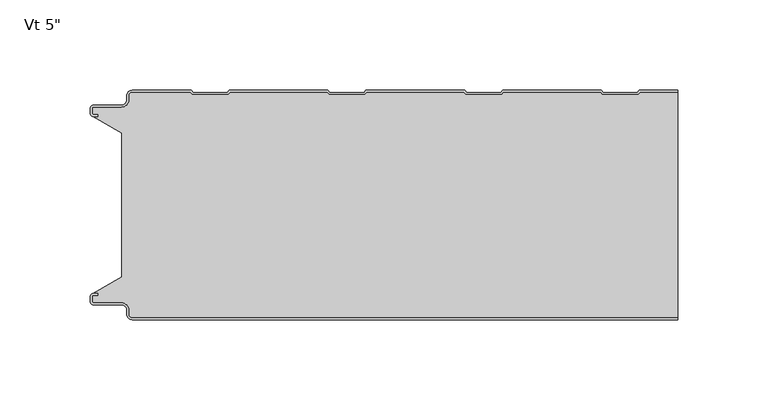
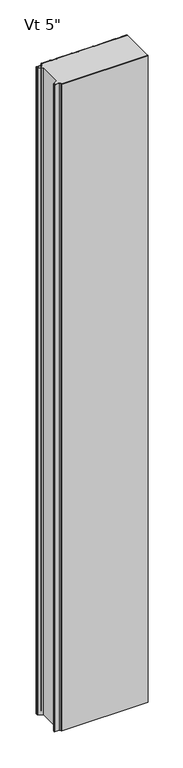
"""IFC4 building model written with IfcOpenShell, lengths in millimetres: plate geometry."""

from ifc_helpers import new_model, si_unit, frame, origin, place, context, project, spatial, polyline, circle_curve, source, transform, mapped, element, save
from ifc_brep_helpers import plane_surface, cylinder_surface, revolved_surface, advanced_brep


def plate_44be25aa(model_context):
    return source(origin(), model_context, "Body", "AdvancedBrep", [
        advanced_brep(
        [(133.0522163, -1.0, 2400.0), (153.7374998, -1.0, 2400.0), (153.7374998, 0.0, 2400.0), (132.6097769, 0.0, 2400.0), (131.5372521, -1.1911595, 2400.0), (112.6391361, -1.1911595, 2400.0), (111.5666112, 0.0, 2400.0), (56.9871567, 0.0, 2400.0), (55.9146318, -1.1911595, 2400.0), (37.0165158, -1.1911595, 2400.0), (35.943991, 0.0, 2400.0), (-18.6354636, 0.0, 2400.0), (-19.7079884, -1.1911595, 2400.0), (-38.6061045, -1.1911595, 2400.0), (-39.6786293, 0.0, 2400.0), (-94.2580838, 0.0, 2400.0), (-95.3306087, -1.1911595, 2400.0), (-114.2287247, -1.1911595, 2400.0), (-115.3012496, 0.0, 2400.0), (-147.9102806, 0.0, 2400.0), (-150.8875472, -2.9772904, 2400.0), (-150.8875472, -5.2691742, 2400.0), (-153.8648158, -8.2464427, 2400.0), (-169.4612418, -8.2464427, 2400.0), (-171.0491183, -9.8343193, 2400.0), (-171.0491183, -12.905868, 2400.0), (-169.4612418, -14.4937445, 2400.0), (-167.1062063, -14.4937445, 2400.0), (-167.1062063, -13.4937445, 2400.0), (-169.4612418, -13.4937445, 2400.0), (-170.0491183, -12.905868, 2400.0), (-170.0491183, -9.8343193, 2400.0), (-169.4612418, -9.2464427, 2400.0), (-153.8648158, -9.2464427, 2400.0), (-149.8875472, -5.2691742, 2400.0), (-149.8875472, -2.9772904, 2400.0), (-147.9102799, -1.0000218, 2400.0), (-115.7436889, -1.0, 2400.0), (-114.671164, -2.1911595, 2400.0), (-94.8881694, -2.1911595, 2400.0), (-93.8156445, -1.0, 2400.0), (-40.1210686, -1.0, 2400.0), (-39.0485438, -2.1911595, 2400.0), (-19.2655491, -2.1911595, 2400.0), (-18.1930243, -1.0, 2400.0), (35.5015516, -1.0, 2400.0), (36.5740765, -2.1911595, 2400.0), (56.3570712, -2.1911595, 2400.0), (57.429596, -1.0, 2400.0), (111.1241719, -1.0, 2400.0), (112.1966967, -2.1911595, 2400.0), (131.9796914, -2.1911595, 2400.0), (132.6097769, 0.0, 0.0), (153.7374998, 0.0, 0.0), (153.7374998, -1.0, 0.0), (133.0522163, -1.0, 0.0), (131.9796914, -2.1911595, 0.0), (112.1966967, -2.1911595, 0.0), (111.1241719, -1.0, 0.0), (57.429596, -1.0, 0.0), (56.3570712, -2.1911595, 0.0), (36.5740765, -2.1911595, 0.0), (35.5015516, -1.0, 0.0), (-18.1930243, -1.0, 0.0), (-19.2655491, -2.1911595, 0.0), (-39.0485438, -2.1911595, 0.0), (-40.1210686, -1.0, 0.0), (-93.8156445, -1.0, 0.0), (-94.8881694, -2.1911595, 0.0), (-114.671164, -2.1911595, 0.0), (-115.7436889, -1.0, 0.0), (-147.9102799, -1.0, 0.0), (-149.8875472, -2.9772904, 0.0), (-149.8875472, -5.2691742, 0.0), (-153.8648158, -9.2464427, 0.0), (-169.4612418, -9.2464427, 0.0), (-170.0491183, -9.8343193, 0.0), (-170.0491183, -12.905868, 0.0), (-169.4612418, -13.4937445, 0.0), (-167.1062063, -13.4937445, 0.0), (-167.1062063, -14.4937445, 0.0), (-169.4612418, -14.4937445, 0.0), (-171.0491183, -12.905868, 0.0), (-171.0491183, -9.8343193, 0.0), (-169.4612418, -8.2464427, 0.0), (-153.8648158, -8.2464427, 0.0), (-150.8875472, -5.2691742, 0.0), (-150.8875472, -2.9772904, 0.0), (-147.9102806, -2.18e-05, 0.0), (-115.3012496, 0.0, 0.0), (-114.2287247, -1.1911595, 0.0), (-95.3306087, -1.1911595, 0.0), (-94.2580838, 0.0, 0.0), (-39.6786293, 0.0, 0.0), (-38.6061045, -1.1911595, 0.0), (-19.7079884, -1.1911595, 0.0), (-18.6354636, 0.0, 0.0), (35.943991, 0.0, 0.0), (37.0165158, -1.1911595, 0.0), (55.9146318, -1.1911595, 0.0), (56.9871567, 0.0, 0.0), (111.5666112, 0.0, 0.0), (112.6391361, -1.1911595, 0.0), (131.5372521, -1.1911595, 0.0)],
        [
            (0, 1),
            (1, 2),
            (2, 3),
            (3, 4),
            (4, 5),
            (5, 6),
            (6, 7),
            (7, 8),
            (8, 9),
            (9, 10),
            (10, 11),
            (11, 12),
            (12, 13),
            (13, 14),
            (14, 15),
            (15, 16),
            (16, 17),
            (17, 18),
            (18, 19),
            (19, 20, circle_curve(frame((-147.9102787, -2.9772904, 2400.0), z_axis=(0.0, 0.0, 1.0), x_axis=(0.0, 1.0, 0.0)), 2.9772685)),
            (20, 21),
            (21, 22, circle_curve(frame((-153.8648158, -5.2691742, 2400.0), z_axis=(0.0, 0.0, -1.0), x_axis=(0.0, 1.0, 0.0)), 2.9772685)),
            (22, 23),
            (23, 24, circle_curve(frame((-169.4612418, -9.8343193, 2400.0), z_axis=(0.0, 0.0, 1.0), x_axis=(0.0, 1.0, 0.0)), 1.5878765)),
            (24, 25),
            (25, 26, circle_curve(frame((-169.4612418, -12.905868, 2400.0), z_axis=(0.0, 0.0, 1.0), x_axis=(0.0, 1.0, 0.0)), 1.5878765)),
            (26, 27),
            (27, 28),
            (28, 29),
            (29, 30, circle_curve(frame((-169.4612418, -12.905868, 2400.0), z_axis=(0.0, 0.0, -1.0), x_axis=(0.0, 1.0, 0.0)), 0.5878765)),
            (30, 31),
            (31, 32, circle_curve(frame((-169.4612418, -9.8343193, 2400.0), z_axis=(0.0, 0.0, -1.0), x_axis=(0.0, 1.0, 0.0)), 0.5878765)),
            (32, 33),
            (33, 34, circle_curve(frame((-153.8648158, -5.2691742, 2400.0), z_axis=(0.0, 0.0, 1.0), x_axis=(0.0, 1.0, 0.0)), 3.9772685)),
            (34, 35),
            (35, 36, circle_curve(frame((-147.9102787, -2.9772904, 2400.0), z_axis=(0.0, 0.0, -1.0), x_axis=(0.0, 1.0, 0.0)), 1.9772685)),
            (36, 37),
            (37, 38),
            (38, 39),
            (39, 40),
            (40, 41),
            (41, 42),
            (42, 43),
            (43, 44),
            (44, 45),
            (45, 46),
            (46, 47),
            (47, 48),
            (48, 49),
            (49, 50),
            (50, 51),
            (51, 0),
            (52, 53),
            (53, 54),
            (54, 55),
            (55, 56),
            (56, 57),
            (57, 58),
            (58, 59),
            (59, 60),
            (60, 61),
            (61, 62),
            (62, 63),
            (63, 64),
            (64, 65),
            (65, 66),
            (66, 67),
            (67, 68),
            (68, 69),
            (69, 70),
            (70, 71),
            (71, 72, circle_curve(frame((-147.9102787, -2.9772904, 0.0), z_axis=(0.0, 0.0, 1.0), x_axis=(0.0, 1.0, 0.0)), 1.9772685)),
            (72, 73),
            (73, 74, circle_curve(frame((-153.8648158, -5.2691742, 0.0), z_axis=(0.0, 0.0, -1.0), x_axis=(0.0, 1.0, 0.0)), 3.9772685)),
            (74, 75),
            (75, 76, circle_curve(frame((-169.4612418, -9.8343193, 0.0), z_axis=(0.0, 0.0, 1.0), x_axis=(0.0, 1.0, 0.0)), 0.5878765)),
            (76, 77),
            (77, 78, circle_curve(frame((-169.4612418, -12.905868, 0.0), z_axis=(0.0, 0.0, 1.0), x_axis=(0.0, 1.0, 0.0)), 0.5878765)),
            (78, 79),
            (79, 80),
            (80, 81),
            (81, 82, circle_curve(frame((-169.4612418, -12.905868, 0.0), z_axis=(0.0, 0.0, -1.0), x_axis=(0.0, 1.0, 0.0)), 1.5878765)),
            (82, 83),
            (83, 84, circle_curve(frame((-169.4612418, -9.8343193, 0.0), z_axis=(0.0, 0.0, -1.0), x_axis=(0.0, 1.0, 0.0)), 1.5878765)),
            (84, 85),
            (85, 86, circle_curve(frame((-153.8648158, -5.2691742, 0.0), z_axis=(0.0, 0.0, 1.0), x_axis=(0.0, 1.0, 0.0)), 2.9772685)),
            (86, 87),
            (87, 88, circle_curve(frame((-147.9102787, -2.9772904, 0.0), z_axis=(0.0, 0.0, -1.0), x_axis=(0.0, 1.0, 0.0)), 2.9772685)),
            (88, 89),
            (89, 90),
            (90, 91),
            (91, 92),
            (92, 93),
            (93, 94),
            (94, 95),
            (95, 96),
            (96, 97),
            (97, 98),
            (98, 99),
            (99, 100),
            (100, 101),
            (101, 102),
            (102, 103),
            (103, 52),
            (54, 1),
            (0, 55),
            (51, 56),
            (50, 57),
            (49, 58),
            (48, 59),
            (47, 60),
            (46, 61),
            (45, 62),
            (44, 63),
            (43, 64),
            (42, 65),
            (41, 66),
            (40, 67),
            (39, 68),
            (38, 69),
            (37, 70),
            (36, 71),
            (35, 72),
            (34, 73),
            (33, 74),
            (32, 75),
            (31, 76),
            (30, 77),
            (29, 78),
            (28, 79),
            (27, 80),
            (26, 81),
            (25, 82),
            (24, 83),
            (23, 84),
            (22, 85),
            (21, 86),
            (20, 87),
            (19, 88),
            (18, 89),
            (17, 90),
            (16, 91),
            (15, 92),
            (14, 93),
            (13, 94),
            (12, 95),
            (11, 96),
            (10, 97),
            (9, 98),
            (8, 99),
            (7, 100),
            (6, 101),
            (5, 102),
            (4, 103),
            (3, 52),
            (2, 53),
        ],
        [
            plane_surface(frame((422.5250002, 0.0, 2400.0), z_axis=(0.0, 0.0, 1.0), x_axis=(0.0, 1.0, 0.0))),
            plane_surface(frame((422.5250002, 0.0, 0.0), z_axis=(0.0, 0.0, -1.0), x_axis=(0.0, 1.0, 0.0))),
            plane_surface(frame((186.7467922, -1.0, 2400.0), z_axis=(0.0, -1.0, 0.0), x_axis=(0.0, 0.0, -1.0))),
            plane_surface(frame((133.0522163, -1.0, 2400.0), z_axis=(0.7431448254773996, -0.6691306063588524, 0.0), x_axis=(0.0, 0.0, -1.0))),
            plane_surface(frame((131.9796914, -2.1911595, 2400.0), z_axis=(0.0, -1.0, 0.0), x_axis=(0.0, 0.0, -1.0))),
            plane_surface(frame((112.1966967, -2.1911595, 2400.0), z_axis=(-0.7431448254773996, -0.6691306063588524, 0.0), x_axis=(0.0, 0.0, -1.0))),
            plane_surface(frame((111.1241719, -1.0, 2400.0), z_axis=(0.0, -1.0, 0.0), x_axis=(0.0, 0.0, -1.0))),
            plane_surface(frame((57.429596, -1.0, 2400.0), z_axis=(0.7431448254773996, -0.6691306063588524, 0.0), x_axis=(0.0, 0.0, -1.0))),
            plane_surface(frame((56.3570712, -2.1911595, 2400.0), z_axis=(0.0, -1.0, 0.0), x_axis=(0.0, 0.0, -1.0))),
            plane_surface(frame((36.5740765, -2.1911595, 2400.0), z_axis=(-0.7431448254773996, -0.6691306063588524, 0.0), x_axis=(0.0, 0.0, -1.0))),
            plane_surface(frame((35.5015516, -1.0, 2400.0), z_axis=(0.0, -1.0, 0.0), x_axis=(0.0, 0.0, -1.0))),
            plane_surface(frame((-18.1930243, -1.0, 2400.0), z_axis=(0.7431448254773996, -0.6691306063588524, 0.0), x_axis=(0.0, 0.0, -1.0))),
            plane_surface(frame((-19.2655491, -2.1911595, 2400.0), z_axis=(0.0, -1.0, 0.0), x_axis=(0.0, 0.0, -1.0))),
            plane_surface(frame((-39.0485438, -2.1911595, 2400.0), z_axis=(-0.7431448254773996, -0.6691306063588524, 0.0), x_axis=(0.0, 0.0, -1.0))),
            plane_surface(frame((-40.1210686, -1.0, 2400.0), z_axis=(0.0, -1.0, 0.0), x_axis=(0.0, 0.0, -1.0))),
            plane_surface(frame((-93.8156445, -1.0, 2400.0), z_axis=(0.7431448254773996, -0.6691306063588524, 0.0), x_axis=(0.0, 0.0, -1.0))),
            plane_surface(frame((-94.8881694, -2.1911595, 2400.0), z_axis=(0.0, -1.0, 0.0), x_axis=(0.0, 0.0, -1.0))),
            plane_surface(frame((-114.671164, -2.1911595, 2400.0), z_axis=(-0.7431448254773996, -0.6691306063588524, 0.0), x_axis=(0.0, 0.0, -1.0))),
            plane_surface(frame((-115.7436889, -1.0, 2400.0), z_axis=(0.0, -1.0, 0.0), x_axis=(0.0, 0.0, -1.0))),
            revolved_surface(polyline([(-147.9102787, -1.0000218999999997, 0.0), (-147.9102787, -1.0000218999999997, 2400.0)]), (-147.9102787, -2.9772904, 2400.0), (0.0, 0.0, -1.0)),
            plane_surface(frame((-149.8875472, -2.9772904, 2400.0), z_axis=(1.0, 0.0, 0.0), x_axis=(0.0, 0.0, -1.0))),
            cylinder_surface(frame((-153.8648158, -5.2691742, 2400.0), z_axis=(0.0, 0.0, 1.0), x_axis=(0.0, 1.0, 0.0)), 3.9772685),
            plane_surface(frame((-153.8648158, -9.2464427, 2400.0), z_axis=(0.0, -1.0, 0.0), x_axis=(0.0, 0.0, -1.0))),
            revolved_surface(polyline([(-169.4612418, -9.2464428, 0.0), (-169.4612418, -9.2464428, 2400.0)]), (-169.4612418, -9.8343193, 2400.0), (0.0, 0.0, -1.0)),
            plane_surface(frame((-170.0491183, -9.8343193, 2400.0), z_axis=(1.0, 0.0, 0.0), x_axis=(0.0, 0.0, -1.0))),
            revolved_surface(polyline([(-169.4612418, -12.3179915, 0.0), (-169.4612418, -12.3179915, 2400.0)]), (-169.4612418, -12.905868, 2400.0), (0.0, 0.0, -1.0)),
            plane_surface(frame((-169.4612418, -13.4937445, 2400.0), z_axis=(0.0, 1.0, 0.0), x_axis=(0.0, 0.0, -1.0))),
            plane_surface(frame((-167.1062063, -13.4937445, 2400.0), z_axis=(1.0, 0.0, 0.0), x_axis=(0.0, 0.0, -1.0))),
            plane_surface(frame((-167.1062063, -14.4937445, 2400.0), z_axis=(0.0, -1.0, 0.0), x_axis=(0.0, 0.0, -1.0))),
            cylinder_surface(frame((-169.4612418, -12.905868, 2400.0), z_axis=(0.0, 0.0, 1.0), x_axis=(0.0, 1.0, 0.0)), 1.5878765),
            plane_surface(frame((-171.0491183, -12.905868, 2400.0), z_axis=(-1.0, 0.0, 0.0), x_axis=(0.0, 0.0, -1.0))),
            cylinder_surface(frame((-169.4612418, -9.8343193, 2400.0), z_axis=(0.0, 0.0, 1.0), x_axis=(0.0, 1.0, 0.0)), 1.5878765),
            plane_surface(frame((-169.4612418, -8.2464427, 2400.0), z_axis=(0.0, 1.0, 0.0), x_axis=(0.0, 0.0, -1.0))),
            revolved_surface(polyline([(-153.8648158, -2.2919057, 0.0), (-153.8648158, -2.2919057, 2400.0)]), (-153.8648158, -5.2691742, 2400.0), (0.0, 0.0, -1.0)),
            plane_surface(frame((-150.8875472, -5.2691742, 2400.0), z_axis=(-1.0, 0.0, 0.0), x_axis=(0.0, 0.0, -1.0))),
            cylinder_surface(frame((-147.9102787, -2.9772904, 2400.0), z_axis=(0.0, 0.0, 1.0), x_axis=(0.0, 1.0, 0.0)), 2.9772685),
            plane_surface(frame((-147.9102806, 0.0, 2400.0), z_axis=(0.0, 1.0, 0.0), x_axis=(0.0, 0.0, -1.0))),
            plane_surface(frame((-115.3012496, 0.0, 2400.0), z_axis=(0.7431448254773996, 0.6691306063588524, 0.0), x_axis=(0.0, 0.0, -1.0))),
            plane_surface(frame((-114.2287247, -1.1911595, 2400.0), z_axis=(0.0, 1.0, 0.0), x_axis=(0.0, 0.0, -1.0))),
            plane_surface(frame((-95.3306087, -1.1911595, 2400.0), z_axis=(-0.7431448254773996, 0.6691306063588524, 0.0), x_axis=(0.0, 0.0, -1.0))),
            plane_surface(frame((-94.2580838, 0.0, 2400.0), z_axis=(0.0, 1.0, 0.0), x_axis=(0.0, 0.0, -1.0))),
            plane_surface(frame((-39.6786293, 0.0, 2400.0), z_axis=(0.7431448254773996, 0.6691306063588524, 0.0), x_axis=(0.0, 0.0, -1.0))),
            plane_surface(frame((-38.6061045, -1.1911595, 2400.0), z_axis=(0.0, 1.0, 0.0), x_axis=(0.0, 0.0, -1.0))),
            plane_surface(frame((-19.7079884, -1.1911595, 2400.0), z_axis=(-0.7431448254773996, 0.6691306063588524, 0.0), x_axis=(0.0, 0.0, -1.0))),
            plane_surface(frame((-18.6354636, 0.0, 2400.0), z_axis=(0.0, 1.0, 0.0), x_axis=(0.0, 0.0, -1.0))),
            plane_surface(frame((35.943991, 0.0, 2400.0), z_axis=(0.7431448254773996, 0.6691306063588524, 0.0), x_axis=(0.0, 0.0, -1.0))),
            plane_surface(frame((37.0165158, -1.1911595, 2400.0), z_axis=(0.0, 1.0, 0.0), x_axis=(0.0, 0.0, -1.0))),
            plane_surface(frame((55.9146318, -1.1911595, 2400.0), z_axis=(-0.7431448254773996, 0.6691306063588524, 0.0), x_axis=(0.0, 0.0, -1.0))),
            plane_surface(frame((56.9871567, 0.0, 2400.0), z_axis=(0.0, 1.0, 0.0), x_axis=(0.0, 0.0, -1.0))),
            plane_surface(frame((111.5666112, 0.0, 2400.0), z_axis=(0.7431448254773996, 0.6691306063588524, 0.0), x_axis=(0.0, 0.0, -1.0))),
            plane_surface(frame((112.6391361, -1.1911595, 2400.0), z_axis=(0.0, 1.0, 0.0), x_axis=(0.0, 0.0, -1.0))),
            plane_surface(frame((131.5372521, -1.1911595, 2400.0), z_axis=(-0.7431448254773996, 0.6691306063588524, 0.0), x_axis=(0.0, 0.0, -1.0))),
            plane_surface(frame((132.6097769, 0.0, 2400.0), z_axis=(0.0, 1.0, 0.0), x_axis=(0.0, 0.0, -1.0))),
            plane_surface(frame((153.7374998, -137.0, 2400.0), z_axis=(1.0, 0.0, 0.0), x_axis=(0.0, 0.0, -1.0))),
        ],
        [
            (0, [[1, 2, 3, 4, 5, 6, 7, 8, 9, 10, 11, 12, 13, 14, 15, 16, 17, 18, 19, 20, 21, 22, 23, 24, 25, 26, 27, 28, 29, 30, 31, 32, 33, 34, 35, 36, 37, 38, 39, 40, 41, 42, 43, 44, 45, 46, 47, 48, 49, 50, 51, 52]]),
            (1, [[53, 54, 55, 56, 57, 58, 59, 60, 61, 62, 63, 64, 65, 66, 67, 68, 69, 70, 71, 72, 73, 74, 75, 76, 77, 78, 79, 80, 81, 82, 83, 84, 85, 86, 87, 88, 89, 90, 91, 92, 93, 94, 95, 96, 97, 98, 99, 100, 101, 102, 103, 104]]),
            (2, [[-55, 105, -1, 106]]),
            (3, [[107, -56, -106, -52]]),
            (4, [[108, -57, -107, -51]]),
            (5, [[109, -58, -108, -50]]),
            (6, [[110, -59, -109, -49]]),
            (7, [[111, -60, -110, -48]]),
            (8, [[112, -61, -111, -47]]),
            (9, [[113, -62, -112, -46]]),
            (10, [[114, -63, -113, -45]]),
            (11, [[115, -64, -114, -44]]),
            (12, [[116, -65, -115, -43]]),
            (13, [[117, -66, -116, -42]]),
            (14, [[118, -67, -117, -41]]),
            (15, [[119, -68, -118, -40]]),
            (16, [[120, -69, -119, -39]]),
            (17, [[121, -70, -120, -38]]),
            (18, [[122, -71, -121, -37]]),
            (19, [[123, -72, -122, -36]]),
            (20, [[124, -73, -123, -35]]),
            (21, [[125, -74, -124, -34]]),
            (22, [[126, -75, -125, -33]]),
            (23, [[127, -76, -126, -32]]),
            (24, [[128, -77, -127, -31]]),
            (25, [[129, -78, -128, -30]]),
            (26, [[130, -79, -129, -29]]),
            (27, [[131, -80, -130, -28]]),
            (28, [[132, -81, -131, -27]]),
            (29, [[133, -82, -132, -26]]),
            (30, [[134, -83, -133, -25]]),
            (31, [[135, -84, -134, -24]]),
            (32, [[136, -85, -135, -23]]),
            (33, [[137, -86, -136, -22]]),
            (34, [[138, -87, -137, -21]]),
            (35, [[139, -88, -138, -20]]),
            (36, [[140, -89, -139, -19]]),
            (37, [[141, -90, -140, -18]]),
            (38, [[142, -91, -141, -17]]),
            (39, [[143, -92, -142, -16]]),
            (40, [[144, -93, -143, -15]]),
            (41, [[145, -94, -144, -14]]),
            (42, [[146, -95, -145, -13]]),
            (43, [[147, -96, -146, -12]]),
            (44, [[148, -97, -147, -11]]),
            (45, [[149, -98, -148, -10]]),
            (46, [[150, -99, -149, -9]]),
            (47, [[151, -100, -150, -8]]),
            (48, [[152, -101, -151, -7]]),
            (49, [[153, -102, -152, -6]]),
            (50, [[154, -103, -153, -5]]),
            (51, [[155, -104, -154, -4]]),
            (52, [[-3, 156, -53, -155]]),
            (53, [[-105, -54, -156, -2]]),
        ],
    ),
        advanced_brep(
        [(-149.8873936, -124.0223811, 2400.0), (-149.8873936, -121.7308685, 2400.0), (-153.864739, -117.7535232, 2400.0), (-169.4612512, -117.7535232, 2400.0), (-170.0491084, -117.165666, 2400.0), (-170.0491084, -114.0941346, 2400.0), (-169.4612373, -113.5062635, 2400.0), (-167.1062063, -113.5062635, 2400.0), (-167.1062063, -112.5062599, 2400.0), (-169.4612418, -112.5062599, 2400.0), (-171.0491183, -114.0941364, 2400.0), (-171.0491183, -117.1656851, 2400.0), (-169.4612418, -118.7535616, 2400.0), (-153.8648158, -118.7535616, 2400.0), (-150.8875472, -121.7308302, 2400.0), (-150.8875472, -124.022714, 2400.0), (-147.9102787, -126.9999825, 2400.0), (153.7374998, -127.0, 2400.0), (153.7374998, -125.9992912, 2400.0), (-147.9104835, -125.9992912, 2400.0), (-149.8873936, -124.0223811, 0.0), (-147.9104835, -125.9992912, 0.0), (153.7374998, -125.9992912, 0.0), (153.7374998, -127.0, 0.0), (-147.9102787, -127.0, 0.0), (-150.8875472, -124.022714, 0.0), (-150.8875472, -121.7308302, 0.0), (-153.8648158, -118.7535616, 0.0), (-169.4612418, -118.7535616, 0.0), (-171.0491183, -117.1656851, 0.0), (-171.0491183, -114.0941364, 0.0), (-169.4612418, -112.5062599, 0.0), (-167.1062063, -112.5062599, 0.0), (-167.1062063, -113.5062635, 0.0), (-169.4612373, -113.5062635, 0.0), (-170.0491084, -114.0941346, 0.0), (-170.0491084, -117.165666, 0.0), (-169.4612512, -117.7535232, 0.0), (-153.864739, -117.7535232, 0.0), (-149.8873936, -121.7308685, 0.0)],
        [
            (0, 1),
            (1, 2, circle_curve(frame((-153.864739, -121.7308685, 2400.0), z_axis=(0.0, 0.0, 1.0), x_axis=(-1.0, 0.0, 0.0)), 3.9773454)),
            (2, 3),
            (3, 4, circle_curve(frame((-169.4612512, -117.165666, 2400.0), z_axis=(0.0, 0.0, -1.0), x_axis=(-1.0, 0.0, 0.0)), 0.5878572)),
            (4, 5),
            (5, 6, circle_curve(frame((-169.4612373, -114.0941346, 2400.0), z_axis=(0.0, 0.0, -1.0), x_axis=(-1.0, 0.0, 0.0)), 0.5878711)),
            (6, 7),
            (7, 8),
            (8, 9),
            (9, 10, circle_curve(frame((-169.4612418, -114.0941364, 2400.0), z_axis=(0.0, 0.0, 1.0), x_axis=(-1.0, 0.0, 0.0)), 1.5878765)),
            (10, 11),
            (11, 12, circle_curve(frame((-169.4612418, -117.1656851, 2400.0), z_axis=(0.0, 0.0, 1.0), x_axis=(-1.0, 0.0, 0.0)), 1.5878765)),
            (12, 13),
            (13, 14, circle_curve(frame((-153.8648158, -121.7308302, 2400.0), z_axis=(0.0, 0.0, -1.0), x_axis=(-1.0, 0.0, 0.0)), 2.9772685)),
            (14, 15),
            (15, 16, circle_curve(frame((-147.9102787, -124.022714, 2400.0), z_axis=(0.0, 0.0, 1.0), x_axis=(-1.0, 0.0, 0.0)), 2.9772685)),
            (16, 17),
            (17, 18),
            (18, 19),
            (19, 0, circle_curve(frame((-147.9104835, -124.0223811, 2400.0), z_axis=(0.0, 0.0, -1.0), x_axis=(-1.0, 0.0, 0.0)), 1.9769101)),
            (20, 21, circle_curve(frame((-147.9104835, -124.0223811, 0.0), z_axis=(0.0, 0.0, 1.0), x_axis=(-1.0, 0.0, 0.0)), 1.9769101)),
            (21, 22),
            (22, 23),
            (23, 24),
            (24, 25, circle_curve(frame((-147.9102787, -124.022714, 0.0), z_axis=(0.0, 0.0, -1.0), x_axis=(-1.0, 0.0, 0.0)), 2.9772685)),
            (25, 26),
            (26, 27, circle_curve(frame((-153.8648158, -121.7308302, 0.0), z_axis=(0.0, 0.0, 1.0), x_axis=(-1.0, 0.0, 0.0)), 2.9772685)),
            (27, 28),
            (28, 29, circle_curve(frame((-169.4612418, -117.1656851, 0.0), z_axis=(0.0, 0.0, -1.0), x_axis=(-1.0, 0.0, 0.0)), 1.5878765)),
            (29, 30),
            (30, 31, circle_curve(frame((-169.4612418, -114.0941364, 0.0), z_axis=(0.0, 0.0, -1.0), x_axis=(-1.0, 0.0, 0.0)), 1.5878765)),
            (31, 32),
            (32, 33),
            (33, 34),
            (34, 35, circle_curve(frame((-169.4612373, -114.0941346, 0.0), z_axis=(0.0, 0.0, 1.0), x_axis=(-1.0, 0.0, 0.0)), 0.5878711)),
            (35, 36),
            (36, 37, circle_curve(frame((-169.4612512, -117.165666, 0.0), z_axis=(0.0, 0.0, 1.0), x_axis=(-1.0, 0.0, 0.0)), 0.5878572)),
            (37, 38),
            (38, 39, circle_curve(frame((-153.864739, -121.7308685, 0.0), z_axis=(0.0, 0.0, -1.0), x_axis=(-1.0, 0.0, 0.0)), 3.9773454)),
            (39, 20),
            (17, 23),
            (22, 18),
            (16, 24),
            (21, 19),
            (20, 0),
            (39, 1),
            (38, 2),
            (37, 3),
            (4, 36),
            (35, 5),
            (34, 6),
            (33, 7),
            (32, 8),
            (31, 9),
            (30, 10),
            (29, 11),
            (28, 12),
            (27, 13),
            (26, 14),
            (25, 15),
        ],
        [
            plane_surface(frame((422.5250002, -127.0, 2400.0), z_axis=(0.0, 0.0, 1.0), x_axis=(0.0, -1.0, 0.0))),
            plane_surface(frame((422.5250002, -127.0, 0.0), z_axis=(0.0, 0.0, -1.0), x_axis=(0.0, -1.0, 0.0))),
            plane_surface(frame((153.7374998, -137.0, 2400.0), z_axis=(1.0, 0.0, 0.0), x_axis=(0.0, 0.0, -1.0))),
            plane_surface(frame((997.0725653, -127.0, 2400.0), z_axis=(0.0, -1.0, 0.0), x_axis=(0.0, 0.0, -1.0))),
            plane_surface(frame((-147.9104835, -125.9992912, 2400.0), z_axis=(0.0, 1.0, 0.0), x_axis=(0.0, 0.0, -1.0))),
            revolved_surface(polyline([(-149.8873936, -124.0223811, 0.0), (-149.8873936, -124.0223811, 2400.0)]), (-147.9104835, -124.0223811, 2400.0), (0.0, 0.0, -1.0)),
            plane_surface(frame((-149.8873936, -121.7308685, 2400.0), z_axis=(1.0, 0.0, 0.0), x_axis=(0.0, 0.0, -1.0))),
            cylinder_surface(frame((-153.864739, -121.7308685, 2400.0), z_axis=(0.0, 0.0, 1.0), x_axis=(-1.0, 0.0, 0.0)), 3.9773454),
            plane_surface(frame((-169.4612512, -117.7535232, 2400.0), z_axis=(0.0, 1.0, 0.0), x_axis=(0.0, 0.0, -1.0))),
            plane_surface(frame((-170.0491084, -114.0941346, 2400.0), z_axis=(1.0, 0.0, 0.0), x_axis=(0.0, 0.0, -1.0))),
            revolved_surface(polyline([(-170.0491084, -114.0941346, 0.0), (-170.0491084, -114.0941346, 2400.0)]), (-169.4612373, -114.0941346, 2400.0), (0.0, 0.0, -1.0)),
            plane_surface(frame((-167.1062063, -113.5062635, 2400.0), z_axis=(0.0, -1.0, 0.0), x_axis=(0.0, 0.0, -1.0))),
            plane_surface(frame((-167.1062063, -112.5062599, 2400.0), z_axis=(1.0, 0.0, 0.0), x_axis=(0.0, 0.0, -1.0))),
            plane_surface(frame((-169.4612418, -112.5062599, 2400.0), z_axis=(0.0, 1.0, 0.0), x_axis=(0.0, 0.0, -1.0))),
            cylinder_surface(frame((-169.4612418, -114.0941364, 2400.0), z_axis=(0.0, 0.0, 1.0), x_axis=(-1.0, 0.0, 0.0)), 1.5878765),
            plane_surface(frame((-171.0491183, -117.1656851, 2400.0), z_axis=(-1.0, 0.0, 0.0), x_axis=(0.0, 0.0, -1.0))),
            cylinder_surface(frame((-169.4612418, -117.1656851, 2400.0), z_axis=(0.0, 0.0, 1.0), x_axis=(-1.0, 0.0, 0.0)), 1.5878765),
            plane_surface(frame((-153.8648158, -118.7535616, 2400.0), z_axis=(0.0, -1.0, 0.0), x_axis=(0.0, 0.0, -1.0))),
            revolved_surface(polyline([(-156.8420843, -121.7308302, 0.0), (-156.8420843, -121.7308302, 2400.0)]), (-153.8648158, -121.7308302, 2400.0), (0.0, 0.0, -1.0)),
            plane_surface(frame((-150.8875472, -124.022714, 2400.0), z_axis=(-1.0, 0.0, 0.0), x_axis=(0.0, 0.0, -1.0))),
            cylinder_surface(frame((-147.9102787, -124.022714, 2400.0), z_axis=(0.0, 0.0, 1.0), x_axis=(-1.0, 0.0, 0.0)), 2.9772685),
            revolved_surface(polyline([(-170.0491084, -117.165666, 0.0), (-170.0491084, -117.165666, 2400.0)]), (-169.4612512, -117.165666, 2400.0), (0.0, 0.0, -1.0)),
        ],
        [
            (0, [[1, 2, 3, 4, 5, 6, 7, 8, 9, 10, 11, 12, 13, 14, 15, 16, 17, 18, 19, 20]]),
            (1, [[21, 22, 23, 24, 25, 26, 27, 28, 29, 30, 31, 32, 33, 34, 35, 36, 37, 38, 39, 40]]),
            (2, [[41, -23, 42, -18]]),
            (3, [[-24, -41, -17, 43]]),
            (4, [[-19, -42, -22, 44]]),
            (5, [[-44, -21, 45, -20]]),
            (6, [[-45, -40, 46, -1]]),
            (7, [[-46, -39, 47, -2]]),
            (8, [[-47, -38, 48, -3]]),
            (9, [[49, -36, 50, -5]]),
            (10, [[-50, -35, 51, -6]]),
            (11, [[-51, -34, 52, -7]]),
            (12, [[-52, -33, 53, -8]]),
            (13, [[-53, -32, 54, -9]]),
            (14, [[-54, -31, 55, -10]]),
            (15, [[-55, -30, 56, -11]]),
            (16, [[-56, -29, 57, -12]]),
            (17, [[-57, -28, 58, -13]]),
            (18, [[-58, -27, 59, -14]]),
            (19, [[-59, -26, 60, -15]]),
            (20, [[-60, -25, -43, -16]]),
            (21, [[-48, -37, -49, -4]]),
        ],
    ),
        advanced_brep(
        [(-149.88755, -124.0227194, 2400.0), (-147.910276, -125.9999935, 2400.0), (153.7374998, -126.0, 2400.0), (153.7374998, -1.0, 2400.0), (133.0522163, -1.0, 2400.0), (131.9796914, -2.1911595, 2400.0), (112.1966967, -2.1911595, 2400.0), (111.1241719, -1.0, 2400.0), (57.429596, -1.0, 2400.0), (56.3570712, -2.1911595, 2400.0), (36.5740765, -2.1911595, 2400.0), (35.5015516, -1.0, 2400.0), (-18.1930243, -1.0, 2400.0), (-19.2655491, -2.1911595, 2400.0), (-39.0485438, -2.1911595, 2400.0), (-40.1210686, -1.0, 2400.0), (-93.8156445, -1.0, 2400.0), (-94.8881694, -2.1911595, 2400.0), (-114.671164, -2.1911595, 2400.0), (-115.7436889, -1.0000109, 2400.0), (-147.910276, -1.0000109, 2400.0), (-149.88755, -2.9772849, 2400.0), (-149.88755, -5.2691749, 2400.0), (-153.8648171, -9.246442, 2400.0), (-169.4612416, -9.246442, 2400.0), (-170.0491185, -9.8343189, 2400.0), (-170.0491185, -12.9058679, 2400.0), (-169.4612418, -13.4937446, 2400.0), (-167.1062063, -13.4937446, 2400.0), (-167.1062063, -14.4937446, 2400.0), (-169.395785, -14.4937446, 2400.0), (-153.7374998, -23.7509179, 2400.0), (-153.7374998, -103.2490865, 2400.0), (-169.395785, -112.5062598, 2400.0), (-167.1062063, -112.5062598, 2400.0), (-167.1062063, -113.5062598, 2400.0), (-169.4612418, -113.5062598, 2400.0), (-170.0491185, -114.0941365, 2400.0), (-170.0491185, -117.1656854, 2400.0), (-169.4612416, -117.7535623, 2400.0), (-153.8648171, -117.7535623, 2400.0), (-149.88755, -121.7308295, 2400.0), (-149.88755, -124.0227194, 0.0), (-149.88755, -121.7308295, 0.0), (-153.8648171, -117.7535623, 0.0), (-169.4612416, -117.7535623, 0.0), (-170.0491185, -117.1656854, 0.0), (-170.0491185, -114.0941365, 0.0), (-169.4612418, -113.5062598, 0.0), (-167.1062063, -113.5062598, 0.0), (-167.1062063, -112.5062598, 0.0), (-169.395785, -112.5062598, 0.0), (-153.7374998, -103.2490865, 0.0), (-153.7374998, -23.7509179, 0.0), (-169.395785, -14.4937446, 0.0), (-167.1062063, -14.4937446, 0.0), (-167.1062063, -13.4937446, 0.0), (-169.4612418, -13.4937446, 0.0), (-170.0491185, -12.9058679, 0.0), (-170.0491185, -9.8343189, 0.0), (-169.4612416, -9.246442, 0.0), (-153.8648171, -9.246442, 0.0), (-149.88755, -5.2691749, 0.0), (-149.88755, -2.9772849, 0.0), (-147.910276, -1.0000109, 0.0), (-115.7436889, -1.0000109, 0.0), (-114.671164, -2.1911595, 0.0), (-94.8881694, -2.1911595, 0.0), (-93.8156445, -1.0, 0.0), (-40.1210686, -1.0, 0.0), (-39.0485438, -2.1911595, 0.0), (-19.2655491, -2.1911595, 0.0), (-18.1930243, -1.0, 0.0), (35.5015516, -1.0, 0.0), (36.5740765, -2.1911595, 0.0), (56.3570712, -2.1911595, 0.0), (57.429596, -1.0, 0.0), (111.1241719, -1.0, 0.0), (112.1966967, -2.1911595, 0.0), (131.9796914, -2.1911595, 0.0), (133.0522163, -1.0, 0.0), (153.7374998, -1.0, 0.0), (153.7374998, -126.0, 0.0), (-147.910276, -126.0, 0.0)],
        [
            (0, 1, circle_curve(frame((-147.910276, -124.0227194, 2400.0), z_axis=(0.0, 0.0, 1.0), x_axis=(-1.0, 0.0, 0.0)), 1.977274)),
            (1, 2),
            (2, 3),
            (3, 4),
            (4, 5),
            (5, 6),
            (6, 7),
            (7, 8),
            (8, 9),
            (9, 10),
            (10, 11),
            (11, 12),
            (12, 13),
            (13, 14),
            (14, 15),
            (15, 16),
            (16, 17),
            (17, 18),
            (18, 19),
            (19, 20),
            (20, 21, circle_curve(frame((-147.910276, -2.9772849, 2400.0), z_axis=(0.0, 0.0, 1.0), x_axis=(0.0, 1.0, 0.0)), 1.977274)),
            (21, 22),
            (22, 23, circle_curve(frame((-153.8648171, -5.2691749, 2400.0), z_axis=(0.0, 0.0, -1.0), x_axis=(0.0, 1.0, 0.0)), 3.9772671)),
            (23, 24),
            (24, 25, circle_curve(frame((-169.4612416, -9.8343189, 2400.0), z_axis=(0.0, 0.0, 1.0), x_axis=(0.0, 1.0, 0.0)), 0.5878769)),
            (25, 26),
            (26, 27, circle_curve(frame((-169.4612418, -12.9058679, 2400.0), z_axis=(0.0, 0.0, 1.0), x_axis=(0.0, 1.0, 0.0)), 0.5878766)),
            (27, 28),
            (28, 29),
            (29, 30),
            (30, 31),
            (31, 32),
            (32, 33),
            (33, 34),
            (34, 35),
            (35, 36),
            (36, 37, circle_curve(frame((-169.4612418, -114.0941365, 2400.0), z_axis=(0.0, 0.0, 1.0), x_axis=(-1.0, 0.0, 0.0)), 0.5878766)),
            (37, 38),
            (38, 39, circle_curve(frame((-169.4612416, -117.1656854, 2400.0), z_axis=(0.0, 0.0, 1.0), x_axis=(-1.0, 0.0, 0.0)), 0.5878769)),
            (39, 40),
            (40, 41, circle_curve(frame((-153.8648171, -121.7308295, 2400.0), z_axis=(0.0, 0.0, -1.0), x_axis=(-1.0, 0.0, 0.0)), 3.9772671)),
            (41, 0),
            (42, 43),
            (43, 44, circle_curve(frame((-153.8648171, -121.7308295, 0.0), z_axis=(0.0, 0.0, 1.0), x_axis=(-1.0, 0.0, 0.0)), 3.9772671)),
            (44, 45),
            (45, 46, circle_curve(frame((-169.4612416, -117.1656854, 0.0), z_axis=(0.0, 0.0, -1.0), x_axis=(-1.0, 0.0, 0.0)), 0.5878769)),
            (46, 47),
            (47, 48, circle_curve(frame((-169.4612418, -114.0941365, 0.0), z_axis=(0.0, 0.0, -1.0), x_axis=(-1.0, 0.0, 0.0)), 0.5878766)),
            (48, 49),
            (49, 50),
            (50, 51),
            (51, 52),
            (52, 53),
            (53, 54),
            (54, 55),
            (55, 56),
            (56, 57),
            (57, 58, circle_curve(frame((-169.4612418, -12.9058679, 0.0), z_axis=(0.0, 0.0, -1.0), x_axis=(0.0, 1.0, 0.0)), 0.5878766)),
            (58, 59),
            (59, 60, circle_curve(frame((-169.4612416, -9.8343189, 0.0), z_axis=(0.0, 0.0, -1.0), x_axis=(0.0, 1.0, 0.0)), 0.5878769)),
            (60, 61),
            (61, 62, circle_curve(frame((-153.8648171, -5.2691749, 0.0), z_axis=(0.0, 0.0, 1.0), x_axis=(0.0, 1.0, 0.0)), 3.9772671)),
            (62, 63),
            (63, 64, circle_curve(frame((-147.910276, -2.9772849, 0.0), z_axis=(0.0, 0.0, -1.0), x_axis=(0.0, 1.0, 0.0)), 1.977274)),
            (64, 65),
            (65, 66),
            (66, 67),
            (67, 68),
            (68, 69),
            (69, 70),
            (70, 71),
            (71, 72),
            (72, 73),
            (73, 74),
            (74, 75),
            (75, 76),
            (76, 77),
            (77, 78),
            (78, 79),
            (79, 80),
            (80, 81),
            (81, 82),
            (82, 83),
            (83, 42, circle_curve(frame((-147.910276, -124.0227194, 0.0), z_axis=(0.0, 0.0, -1.0), x_axis=(-1.0, 0.0, 0.0)), 1.977274)),
            (31, 53),
            (52, 32),
            (30, 54),
            (29, 55),
            (28, 56),
            (27, 57),
            (26, 58),
            (25, 59),
            (24, 60),
            (23, 61),
            (22, 62),
            (21, 63),
            (20, 64),
            (19, 65),
            (18, 66),
            (17, 67),
            (16, 68),
            (15, 69),
            (14, 70),
            (13, 71),
            (12, 72),
            (11, 73),
            (10, 74),
            (9, 75),
            (8, 76),
            (7, 77),
            (6, 78),
            (5, 79),
            (4, 80),
            (3, 81),
            (2, 82),
            (41, 43),
            (42, 0),
            (40, 44),
            (39, 45),
            (38, 46),
            (37, 47),
            (36, 48),
            (35, 49),
            (34, 50),
            (33, 51),
            (1, 83),
        ],
        [
            plane_surface(frame((422.5250002, -126.0, 2400.0), z_axis=(0.0, 0.0, 1.0), x_axis=(0.0, -1.0, 0.0))),
            plane_surface(frame((422.5250002, -126.0, 0.0), z_axis=(0.0, 0.0, -1.0), x_axis=(0.0, -1.0, 0.0))),
            plane_surface(frame((-153.7374998, -103.2490865, 2400.0), z_axis=(-1.0, 0.0, 0.0), x_axis=(0.0, 0.0, -1.0))),
            plane_surface(frame((-153.7374998, -23.7509179, 2400.0), z_axis=(-0.5089147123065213, -0.860816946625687, 0.0), x_axis=(0.0, 0.0, -1.0))),
            plane_surface(frame((-169.395785, -14.4937446, 2400.0), z_axis=(0.0, 1.0, 0.0), x_axis=(0.0, 0.0, -1.0))),
            plane_surface(frame((-167.1062063, -14.4937446, 2400.0), z_axis=(-1.0, 0.0, 0.0), x_axis=(0.0, 0.0, -1.0))),
            plane_surface(frame((-167.1062063, -13.4937446, 2400.0), z_axis=(0.0, -1.0, 0.0), x_axis=(0.0, 0.0, -1.0))),
            cylinder_surface(frame((-169.4612418, -12.9058679, 2400.0), z_axis=(0.0, 0.0, 1.0), x_axis=(0.0, 1.0, 0.0)), 0.5878766),
            plane_surface(frame((-170.0491185, -12.9058679, 2400.0), z_axis=(-1.0, 0.0, 0.0), x_axis=(0.0, 0.0, -1.0))),
            cylinder_surface(frame((-169.4612416, -9.8343189, 2400.0), z_axis=(0.0, 0.0, 1.0), x_axis=(0.0, 1.0, 0.0)), 0.5878769),
            plane_surface(frame((-169.4612416, -9.246442, 2400.0), z_axis=(0.0, 1.0, 0.0), x_axis=(0.0, 0.0, -1.0))),
            revolved_surface(polyline([(-153.8648171, -1.2919078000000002, 0.0), (-153.8648171, -1.2919078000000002, 2400.0)]), (-153.8648171, -5.2691749, 2400.0), (0.0, 0.0, -1.0)),
            plane_surface(frame((-149.88755, -5.2691749, 2400.0), z_axis=(-1.0, 0.0, 0.0), x_axis=(0.0, 0.0, -1.0))),
            cylinder_surface(frame((-147.910276, -2.9772849, 2400.0), z_axis=(0.0, 0.0, 1.0), x_axis=(0.0, 1.0, 0.0)), 1.977274),
            plane_surface(frame((-147.910276, -1.0000109, 2400.0), z_axis=(0.0, 1.0, 0.0), x_axis=(0.0, 0.0, -1.0))),
            plane_surface(frame((-115.7436889, -1.0000109, 2400.0), z_axis=(0.7431417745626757, 0.669133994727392, 0.0), x_axis=(0.0, 0.0, -1.0))),
            plane_surface(frame((-114.671164, -2.1911595, 2400.0), z_axis=(0.0, 1.0, 0.0), x_axis=(0.0, 0.0, -1.0))),
            plane_surface(frame((-94.8881694, -2.1911595, 2400.0), z_axis=(-0.7431448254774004, 0.6691306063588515, 0.0), x_axis=(0.0, 0.0, -1.0))),
            plane_surface(frame((-93.8156445, -1.0, 2400.0), z_axis=(0.0, 1.0, 0.0), x_axis=(0.0, 0.0, -1.0))),
            plane_surface(frame((-40.1210686, -1.0, 2400.0), z_axis=(0.7431448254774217, 0.6691306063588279, 0.0), x_axis=(0.0, 0.0, -1.0))),
            plane_surface(frame((-39.0485438, -2.1911595, 2400.0), z_axis=(0.0, 1.0, 0.0), x_axis=(0.0, 0.0, -1.0))),
            plane_surface(frame((-19.2655491, -2.1911595, 2400.0), z_axis=(-0.7431448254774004, 0.6691306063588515, 0.0), x_axis=(0.0, 0.0, -1.0))),
            plane_surface(frame((-18.1930243, -1.0, 2400.0), z_axis=(0.0, 1.0, 0.0), x_axis=(0.0, 0.0, -1.0))),
            plane_surface(frame((35.5015516, -1.0, 2400.0), z_axis=(0.7431448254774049, 0.6691306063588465, 0.0), x_axis=(0.0, 0.0, -1.0))),
            plane_surface(frame((36.5740765, -2.1911595, 2400.0), z_axis=(0.0, 1.0, 0.0), x_axis=(0.0, 0.0, -1.0))),
            plane_surface(frame((56.3570712, -2.1911595, 2400.0), z_axis=(-0.7431448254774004, 0.6691306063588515, 0.0), x_axis=(0.0, 0.0, -1.0))),
            plane_surface(frame((57.429596, -1.0, 2400.0), z_axis=(0.0, 1.0, 0.0), x_axis=(0.0, 0.0, -1.0))),
            plane_surface(frame((111.1241719, -1.0, 2400.0), z_axis=(0.7431448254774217, 0.6691306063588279, 0.0), x_axis=(0.0, 0.0, -1.0))),
            plane_surface(frame((112.1966967, -2.1911595, 2400.0), z_axis=(0.0, 1.0, 0.0), x_axis=(0.0, 0.0, -1.0))),
            plane_surface(frame((131.9796914, -2.1911595, 2400.0), z_axis=(-0.7431448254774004, 0.6691306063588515, 0.0), x_axis=(0.0, 0.0, -1.0))),
            plane_surface(frame((133.0522163, -1.0, 2400.0), z_axis=(0.0, 1.0, 0.0), x_axis=(0.0, 0.0, -1.0))),
            plane_surface(frame((153.7374998, -137.0, 2400.0), z_axis=(1.0, 0.0, 0.0), x_axis=(0.0, 0.0, -1.0))),
            plane_surface(frame((-149.88755, -124.0227194, 2400.0), z_axis=(-1.0, 0.0, 0.0), x_axis=(0.0, 0.0, -1.0))),
            revolved_surface(polyline([(-157.84208420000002, -121.7308295, 0.0), (-157.84208420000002, -121.7308295, 2400.0)]), (-153.8648171, -121.7308295, 2400.0), (0.0, 0.0, -1.0)),
            plane_surface(frame((-153.8648171, -117.7535623, 2400.0), z_axis=(0.0, -1.0, 0.0), x_axis=(0.0, 0.0, -1.0))),
            cylinder_surface(frame((-169.4612416, -117.1656854, 2400.0), z_axis=(0.0, 0.0, 1.0), x_axis=(-1.0, 0.0, 0.0)), 0.5878769),
            plane_surface(frame((-170.0491185, -117.1656854, 2400.0), z_axis=(-1.0, 0.0, 0.0), x_axis=(0.0, 0.0, -1.0))),
            cylinder_surface(frame((-169.4612418, -114.0941365, 2400.0), z_axis=(0.0, 0.0, 1.0), x_axis=(-1.0, 0.0, 0.0)), 0.5878766),
            plane_surface(frame((-169.4612418, -113.5062598, 2400.0), z_axis=(0.0, 1.0, 0.0), x_axis=(0.0, 0.0, -1.0))),
            plane_surface(frame((-167.1062063, -113.5062598, 2400.0), z_axis=(-1.0, 0.0, 0.0), x_axis=(0.0, 0.0, -1.0))),
            plane_surface(frame((-167.1062063, -112.5062598, 2400.0), z_axis=(0.0, -1.0, 0.0), x_axis=(0.0, 0.0, -1.0))),
            plane_surface(frame((-169.395785, -112.5062598, 2400.0), z_axis=(-0.5089147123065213, 0.860816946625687, 0.0), x_axis=(0.0, 0.0, -1.0))),
            plane_surface(frame((997.0725653, -126.0, 2400.0), z_axis=(0.0, -1.0, 0.0), x_axis=(0.0, 0.0, -1.0))),
            cylinder_surface(frame((-147.910276, -124.0227194, 2400.0), z_axis=(0.0, 0.0, 1.0), x_axis=(-1.0, 0.0, 0.0)), 1.977274),
        ],
        [
            (0, [[1, 2, 3, 4, 5, 6, 7, 8, 9, 10, 11, 12, 13, 14, 15, 16, 17, 18, 19, 20, 21, 22, 23, 24, 25, 26, 27, 28, 29, 30, 31, 32, 33, 34, 35, 36, 37, 38, 39, 40, 41, 42]]),
            (1, [[43, 44, 45, 46, 47, 48, 49, 50, 51, 52, 53, 54, 55, 56, 57, 58, 59, 60, 61, 62, 63, 64, 65, 66, 67, 68, 69, 70, 71, 72, 73, 74, 75, 76, 77, 78, 79, 80, 81, 82, 83, 84]]),
            (2, [[85, -53, 86, -32]]),
            (3, [[87, -54, -85, -31]]),
            (4, [[88, -55, -87, -30]]),
            (5, [[89, -56, -88, -29]]),
            (6, [[90, -57, -89, -28]]),
            (7, [[91, -58, -90, -27]]),
            (8, [[92, -59, -91, -26]]),
            (9, [[93, -60, -92, -25]]),
            (10, [[94, -61, -93, -24]]),
            (11, [[95, -62, -94, -23]]),
            (12, [[96, -63, -95, -22]]),
            (13, [[97, -64, -96, -21]]),
            (14, [[98, -65, -97, -20]]),
            (15, [[99, -66, -98, -19]]),
            (16, [[100, -67, -99, -18]]),
            (17, [[101, -68, -100, -17]]),
            (18, [[102, -69, -101, -16]]),
            (19, [[103, -70, -102, -15]]),
            (20, [[104, -71, -103, -14]]),
            (21, [[105, -72, -104, -13]]),
            (22, [[106, -73, -105, -12]]),
            (23, [[107, -74, -106, -11]]),
            (24, [[108, -75, -107, -10]]),
            (25, [[109, -76, -108, -9]]),
            (26, [[110, -77, -109, -8]]),
            (27, [[111, -78, -110, -7]]),
            (28, [[112, -79, -111, -6]]),
            (29, [[113, -80, -112, -5]]),
            (30, [[-4, 114, -81, -113]]),
            (31, [[115, -82, -114, -3]]),
            (32, [[116, -43, 117, -42]]),
            (33, [[118, -44, -116, -41]]),
            (34, [[119, -45, -118, -40]]),
            (35, [[120, -46, -119, -39]]),
            (36, [[121, -47, -120, -38]]),
            (37, [[122, -48, -121, -37]]),
            (38, [[123, -49, -122, -36]]),
            (39, [[124, -50, -123, -35]]),
            (40, [[125, -51, -124, -34]]),
            (41, [[-86, -52, -125, -33]]),
            (42, [[-83, -115, -2, 126]]),
            (43, [[-117, -84, -126, -1]]),
        ],
    ),
    ])


if __name__ == "__main__":
    model = new_model("IFC4")
    model_context = context("Model", 3, world=origin())
    ifc_project = project(units=[si_unit("LENGTHUNIT", "METRE", prefix="MILLI")], contexts=[model_context])
    site = spatial("IfcSite", under=ifc_project)
    building = spatial("IfcBuilding", under=site)
    placement = place(None, origin())
    plate_shape = plate_44be25aa(model_context)
    element("IfcPlate", 1, ObjectType="KIP-SLI-FLI-R19-CP-Vt-FL_SL : Vt 5\"", at=placement, inside=building, context=model_context, shape_type="MappedRepresentation", body=[
        mapped(plate_shape, transform((0.0, 0.0, 0.0), x_axis=(1.0, 0.0, 0.0), y_axis=(0.0, 1.0, 0.0), z_axis=(0.0, 0.0, 1.0))),
    ])
    save(model, "model.ifc")
